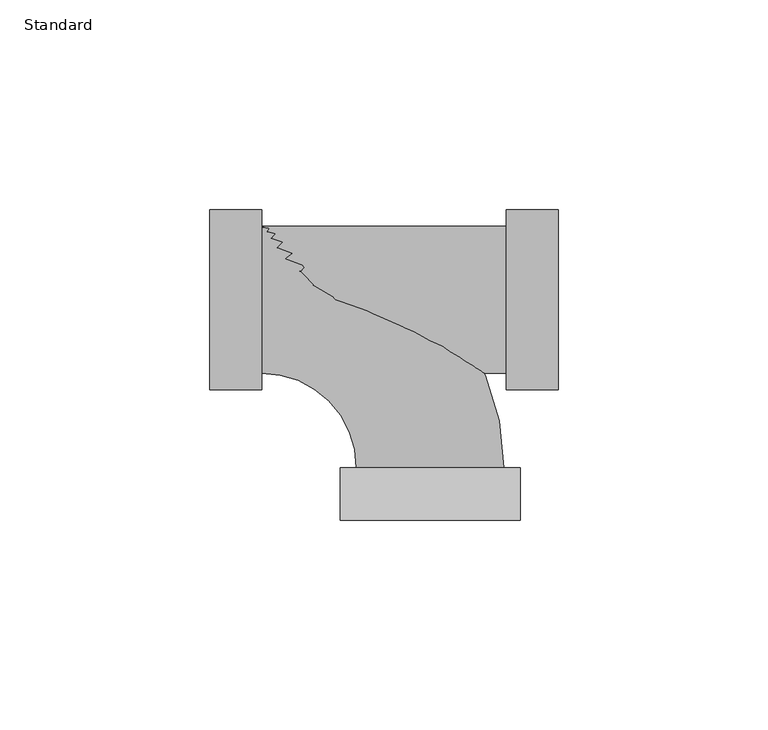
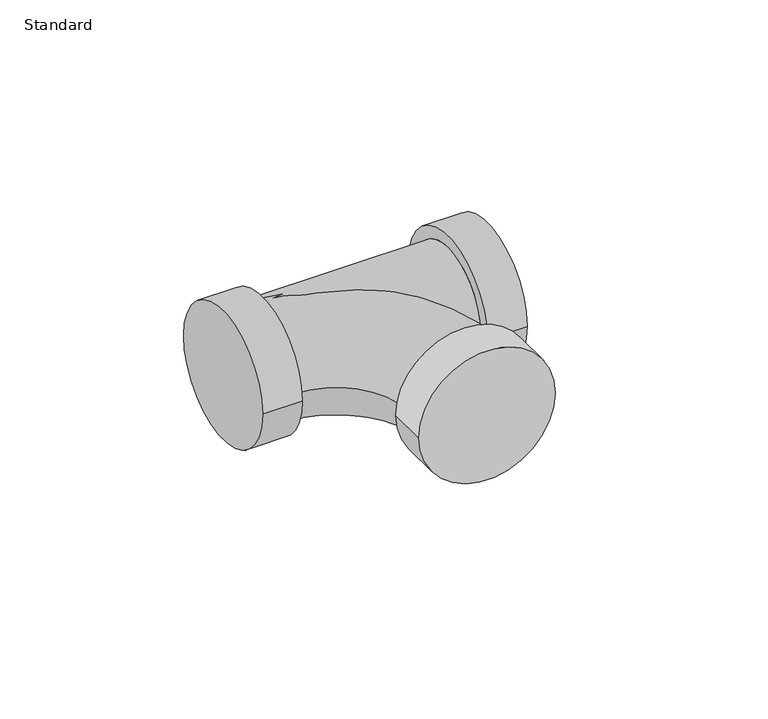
"""IFC4 building model written with IfcOpenShell, lengths in millimetres: pipe fitting geometry, Tee_Lubrizol_CPVC-FlowGuard_MX : Standard."""

from ifc_helpers import new_model, si_unit, point, frame, origin, place, context, project, spatial, circle_curve, ellipse_curve, trimmed, source, transform, mapped, element, save
from ifc_brep_helpers import plane_surface, cylinder_surface, revolved_surface, advanced_brep


def standard_64dc8774(model_context):
    return source(origin(), model_context, "Body", "AdvancedBrep", [
        advanced_brep(
        [(-40.1140625, -17.5640625, 0.0), (-40.1140625, 17.5640625, 0.0), (-17.5640625, -40.1140625, 0.0), (17.5640625, -40.1140625, 0.0), (21.4871094, -52.6140625, 0.0), (-21.4871094, -52.6140625, 0.0), (21.4871094, -40.1140625, 0.0), (-21.4871094, -40.1140625, 0.0)],
        [
            (0, 1, circle_curve(frame((-40.1140625, 0.0, 0.0), z_axis=(-1.0, 0.0, 0.0), x_axis=(0.0, 1.0, 0.0)), 17.5640625)),
            (1, 0, circle_curve(frame((-40.1140625, 0.0, 0.0), z_axis=(-1.0, 0.0, 0.0), x_axis=(0.0, 1.0, 0.0)), 17.5640625)),
            (0, 2, circle_curve(frame((-40.1140625, -40.1140625, 0.0), z_axis=(0.0, 0.0, -1.0), x_axis=(0.0, 1.0, 0.0)), 22.55)),
            (2, 3, circle_curve(frame((0.0, -40.1140625, 0.0), z_axis=(-1.230632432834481e-12, 1.0, 0.0), x_axis=(1.0, 1.230632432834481e-12, 0.0)), 17.5640625)),
            (3, 1, circle_curve(frame((-40.1140625, -40.1140625, 0.0), z_axis=(0.0, 0.0, 1.0), x_axis=(0.0, 1.0, 0.0)), 57.678125)),
            (3, 2, circle_curve(frame((0.0, -40.1140625, 0.0), z_axis=(-1.0287938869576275e-12, 1.0, 0.0), x_axis=(1.0, 1.0287938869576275e-12, 0.0)), 17.5640625)),
            (4, 5, circle_curve(frame((0.0, -52.6140625, 0.0), z_axis=(0.0, -1.0, 0.0), x_axis=(-1.0, 0.0, 0.0)), 21.4871094)),
            (5, 4, circle_curve(frame((0.0, -52.6140625, 0.0), z_axis=(0.0, -1.0, 0.0), x_axis=(-1.0, 0.0, 0.0)), 21.4871094)),
            (6, 7, circle_curve(frame((0.0, -40.1140625, 0.0), z_axis=(0.0, 1.0, 0.0), x_axis=(-1.0, 0.0, 0.0)), 21.4871094)),
            (7, 6, circle_curve(frame((0.0, -40.1140625, 0.0), z_axis=(0.0, 1.0, 0.0), x_axis=(-1.0, 0.0, 0.0)), 21.4871094)),
            (4, 6),
            (7, 5),
        ],
        [
            plane_surface(frame((-40.1140625, 0.0, 0.0), z_axis=(-1.0, 0.0, 0.0), x_axis=(0.0, 0.0, 1.0))),
            revolved_surface(trimmed(ellipse_curve(frame((-40.1140625, 0.0, 0.0), z_axis=(-1.0, 0.0, 0.0), x_axis=(0.0, 1.0, 0.0)), 17.5640625, 17.5640625), [point((-40.1140625, -17.5640625, 0.0))], [point((-40.1140625, 17.5640625, 0.0))], True, "CARTESIAN"), (-40.1140625, -40.1140625, 0.0), (0.0, 0.0, -1.0)),
            revolved_surface(trimmed(ellipse_curve(frame((-40.1140625, 0.0, 0.0), z_axis=(-1.0, 0.0, 0.0), x_axis=(0.0, 1.0, 0.0)), 17.5640625, 17.5640625), [point((-40.1140625, 17.5640625, 0.0))], [point((-40.1140625, -17.5640625, 0.0))], True, "CARTESIAN"), (-40.1140625, -40.1140625, 0.0), (0.0, 0.0, -1.0)),
            plane_surface(frame((0.0, -52.6140625, 0.0), z_axis=(0.0, -1.0, 0.0), x_axis=(0.0, 0.0, 1.0))),
            plane_surface(frame((0.0, -40.1140625, 0.0), z_axis=(0.0, 1.0, 0.0), x_axis=(0.0, 0.0, 1.0))),
            cylinder_surface(frame((0.0, -52.6140625, 0.0), z_axis=(0.0, -1.0, 0.0), x_axis=(-1.0, 0.0, 0.0)), 21.4871094),
        ],
        [
            (0, [[1, 2]]),
            (1, [[-1, 3, 4, 5]]),
            (2, [[-2, -5, 6, -3]]),
            (3, [[7, 8]]),
            (4, [[9, 10], [-4, -6]]),
            (5, [[-7, 11, -10, 12]]),
            (5, [[-8, -12, -9, -11]]),
        ],
    ),
        advanced_brep(
        [(-40.1140625, -17.5640625, 0.0), (18.115625, -17.5640625, 0.0), (18.115625, 17.5640625, 0.0), (-40.1140625, 17.5640625, 0.0), (18.115625, -21.4871094, 0.0), (18.115625, 21.4871094, 0.0), (30.615625, -21.4871094, 0.0), (30.615625, 21.4871094, 0.0), (-52.6140625, -21.4871094, 0.0), (-52.6140625, 21.4871094, 0.0), (-40.1140625, -21.4871094, 0.0), (-40.1140625, 21.4871094, 0.0)],
        [
            (0, 1),
            (1, 2, circle_curve(frame((18.115625, 0.0, 0.0), z_axis=(-1.0, 0.0, 0.0), x_axis=(0.0, 1.0, 0.0)), 17.5640625)),
            (2, 3),
            (3, 0, circle_curve(frame((-40.1140625, 0.0, 0.0), z_axis=(1.0, 0.0, 0.0), x_axis=(0.0, 1.0, 0.0)), 17.5640625)),
            (0, 3, circle_curve(frame((-40.1140625, 0.0, 0.0), z_axis=(1.0, 0.0, 0.0), x_axis=(0.0, 1.0, 0.0)), 17.5640625)),
            (2, 1, circle_curve(frame((18.115625, 0.0, 0.0), z_axis=(-1.0, 0.0, 0.0), x_axis=(0.0, 1.0, 0.0)), 17.5640625)),
            (4, 5, circle_curve(frame((18.115625, 0.0, 0.0), z_axis=(-1.0, 0.0, 0.0), x_axis=(0.0, 1.0, 0.0)), 21.4871094)),
            (5, 4, circle_curve(frame((18.115625, 0.0, 0.0), z_axis=(-1.0, 0.0, 0.0), x_axis=(0.0, 1.0, 0.0)), 21.4871094)),
            (6, 7, circle_curve(frame((30.615625, 0.0, 0.0), z_axis=(1.0, 0.0, 0.0), x_axis=(0.0, 1.0, 0.0)), 21.4871094)),
            (7, 6, circle_curve(frame((30.615625, 0.0, 0.0), z_axis=(1.0, 0.0, 0.0), x_axis=(0.0, 1.0, 0.0)), 21.4871094)),
            (4, 6),
            (7, 5),
            (8, 9, circle_curve(frame((-52.6140625, 0.0, 0.0), z_axis=(-1.0, 0.0, 0.0), x_axis=(0.0, 1.0, 0.0)), 21.4871094)),
            (9, 8, circle_curve(frame((-52.6140625, 0.0, 0.0), z_axis=(-1.0, 0.0, 0.0), x_axis=(0.0, 1.0, 0.0)), 21.4871094)),
            (10, 11, circle_curve(frame((-40.1140625, 0.0, 0.0), z_axis=(1.0, 0.0, 0.0), x_axis=(0.0, 1.0, 0.0)), 21.4871094)),
            (11, 10, circle_curve(frame((-40.1140625, 0.0, 0.0), z_axis=(1.0, 0.0, 0.0), x_axis=(0.0, 1.0, 0.0)), 21.4871094)),
            (8, 10),
            (11, 9),
        ],
        [
            cylinder_surface(frame((-40.1140625, 0.0, 0.0), z_axis=(-1.0, 0.0, 0.0), x_axis=(0.0, 1.0, 0.0)), 17.5640625),
            plane_surface(frame((18.115625, 0.0, 0.0), z_axis=(-1.0, 0.0, 0.0), x_axis=(0.0, 0.0, 1.0))),
            plane_surface(frame((30.615625, 0.0, 0.0), z_axis=(1.0, 0.0, 0.0), x_axis=(0.0, 0.0, 1.0))),
            cylinder_surface(frame((18.115625, 0.0, 0.0), z_axis=(-1.0, 0.0, 0.0), x_axis=(0.0, 1.0, 0.0)), 21.4871094),
            plane_surface(frame((-52.6140625, 0.0, 0.0), z_axis=(-1.0, 0.0, 0.0), x_axis=(0.0, 0.0, 1.0))),
            plane_surface(frame((-40.1140625, 0.0, 0.0), z_axis=(1.0, 0.0, 0.0), x_axis=(0.0, 0.0, 1.0))),
            cylinder_surface(frame((-52.6140625, 0.0, 0.0), z_axis=(-1.0, 0.0, 0.0), x_axis=(0.0, 1.0, 0.0)), 21.4871094),
        ],
        [
            (0, [[1, 2, 3, 4]]),
            (0, [[-1, 5, -3, 6]]),
            (1, [[7, 8], [-2, -6]]),
            (2, [[9, 10]]),
            (3, [[-7, 11, -10, 12]]),
            (3, [[-8, -12, -9, -11]]),
            (4, [[13, 14]]),
            (5, [[15, 16], [-4, -5]]),
            (6, [[-13, 17, -16, 18]]),
            (6, [[-14, -18, -15, -17]]),
        ],
    ),
    ])


if __name__ == "__main__":
    model = new_model("IFC4")
    model_context = context("Model", 3, world=origin())
    ifc_project = project(units=[si_unit("LENGTHUNIT", "METRE", prefix="MILLI")], contexts=[model_context])
    site = spatial("IfcSite", under=ifc_project)
    building = spatial("IfcBuilding", under=site)
    placement = place(None, origin())
    standard_shape = standard_64dc8774(model_context)
    element("IfcPipeFitting", 1, ObjectType="Tee_Lubrizol_CPVC-FlowGuard_MX : Standard", at=placement, inside=building, context=model_context, shape_type="MappedRepresentation", body=[
        mapped(standard_shape, transform((0.0, 0.0, 0.0), x_axis=(1.0, 0.0, 0.0), y_axis=(0.0, 1.0, 0.0), z_axis=(0.0, 0.0, 1.0))),
    ])
    save(model, "model.ifc")
